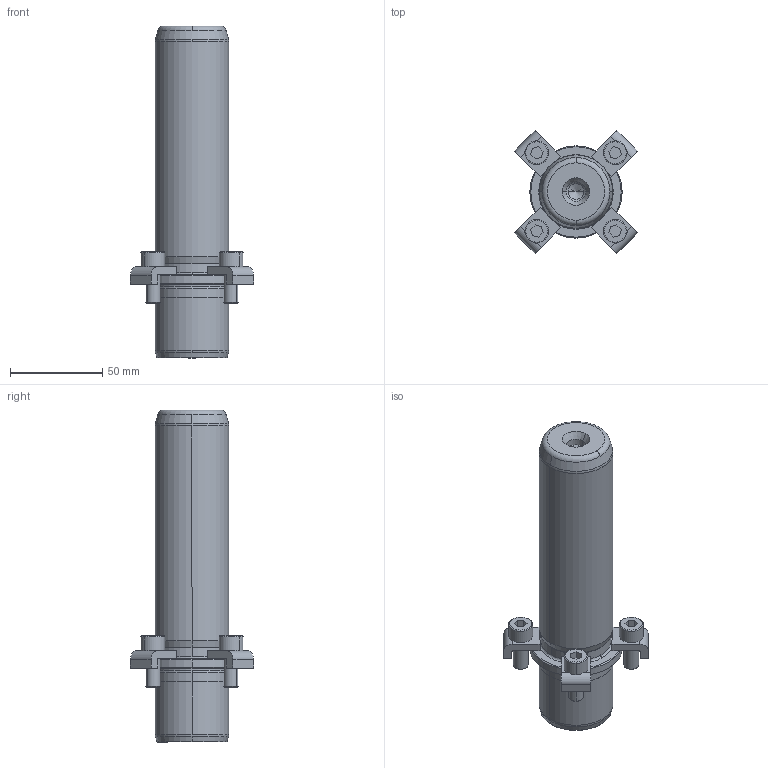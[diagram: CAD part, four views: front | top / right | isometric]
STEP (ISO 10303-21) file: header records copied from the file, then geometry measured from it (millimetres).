
FILE_DESCRIPTION((''),'2;1');
FILE_NAME('P21_040_140.stp','2008-12-23T11:24:51',(''),(''),'Mechanical Desktop 2009','Mechanical Desktop 2009',', , ');
FILE_SCHEMA(('CONFIG_CONTROL_DESIGN'));
Length unit declared in the file: millimetre
Products named in the file (2): Product; blmdl1
Assembly tree (1 placements, depth 2):
  Product
    blmdl1
Bounding box: 66.82 x 66.82 x 180 mm (x, y, z)
Volume: 236327.2 mm3; surface area: 36886.7 mm2
Topology: 9 solids, 9 shells, 203 faces, 501 edges, 325 vertices
Faces by surface type: plane 81, cylinder 56, cone 34, torus 16, bspline 16
Entity records: 6819 total; most frequent: CARTESIAN_POINT 1731, DIRECTION 1126, ORIENTED_EDGE 994, EDGE_CURVE 497, AXIS2_PLACEMENT_3D 440, VERTEX_POINT 325, CIRCLE 251, VECTOR 246
